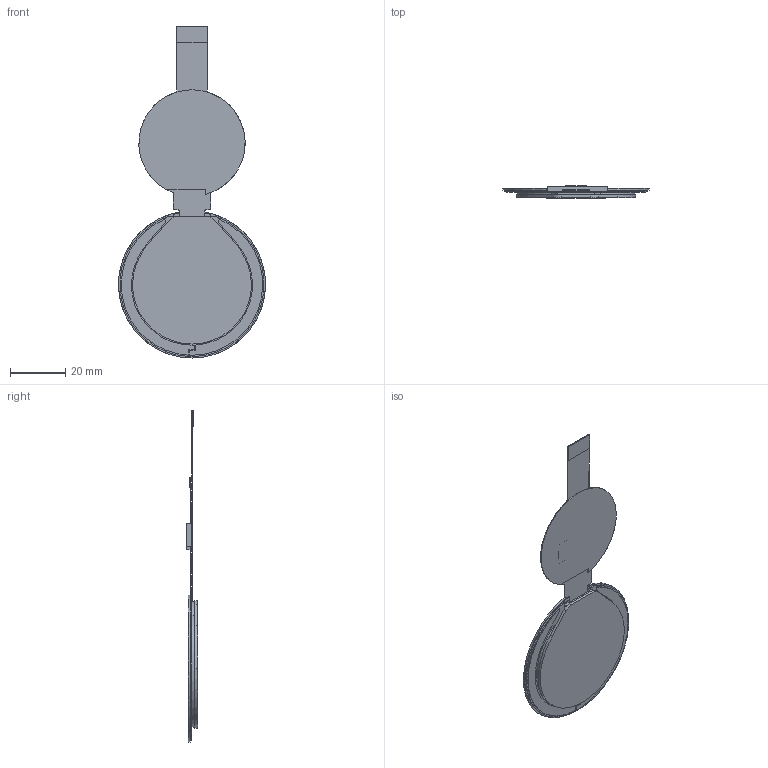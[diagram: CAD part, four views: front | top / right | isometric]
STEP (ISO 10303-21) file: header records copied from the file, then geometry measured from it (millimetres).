
FILE_DESCRIPTION (( 'STEP AP214' ), '1' );
FILE_NAME ('DMG40400F016_06WTC馱最芞 3D.STEP', '2023-11-01T06:43:47', ( '' ), ( 'Microsoft' ), 'SwSTEP 2.0', 'SolidWorks 2017', '' );
FILE_SCHEMA (( 'AUTOMOTIVE_DESIGN' ));
Length unit declared in the file: millimetre
Products named in the file (3): MC016F-276-CTP-A0馱最芞; DMG40400F016_06WN馱最芞; DMG40400F016_06WTC馱最芞 3D
Assembly tree (2 placements, depth 2):
  DMG40400F016_06WTC馱最芞 3D
    DMG40400F016_06WN馱最芞
    MC016F-276-CTP-A0馱最芞
Bounding box: 53 x 4.21 x 119.7 mm (x, y, z)
Volume: 6472.1 mm3; surface area: 14389.3 mm2
Topology: 6 solids, 6 shells, 162 faces, 437 edges, 304 vertices
Faces by surface type: plane 99, cylinder 63
Entity records: 7083 total; most frequent: CARTESIAN_POINT 908, DIRECTION 901, ORIENTED_EDGE 874, EDGE_CURVE 437, LINE 307, VECTOR 307, VERTEX_POINT 304, AXIS2_PLACEMENT_3D 297
